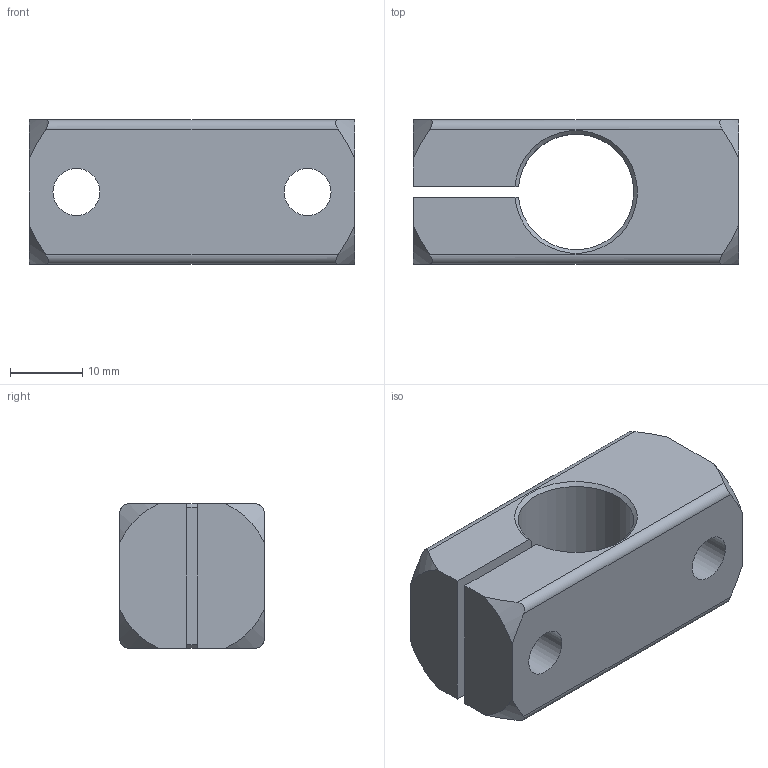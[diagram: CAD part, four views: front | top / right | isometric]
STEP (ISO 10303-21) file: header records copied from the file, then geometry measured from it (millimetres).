
FILE_DESCRIPTION( ( 'STEP AP203' ), '1' );
FILE_NAME( 'C:/Temp/Ganter_Step_05_03_2020/data/3_7/gn_477/Clamp mounting GN 477-B16-MT.stp', '2020-03-12T14:46:06', ( 'License CC BY-ND 4.0' ), ( 'CADENAS' ), ' ', 'PARTsolutions', ' ' );
FILE_SCHEMA( ( 'CONFIG_CONTROL_DESIGN' ) );
Length unit declared in the file: millimetre
Products named in the file (1): _Clamp mounting GN 477-B16-MT
Bounding box: 45 x 20 x 20 mm (x, y, z)
Volume: 11465.5 mm3; surface area: 6013.4 mm2
Topology: 1 solids, 1 shells, 31 faces, 83 edges, 56 vertices
Faces by surface type: plane 11, cone 10, cylinder 10
Full cylindrical faces by diameter (mm): 6.5 x3, 10.5 x2
Entity records: 1112 total; most frequent: CARTESIAN_POINT 342, ORIENTED_EDGE 152, DIRECTION 134, EDGE_CURVE 76, AXIS2_PLACEMENT_3D 54, VERTEX_POINT 54, EDGE_LOOP 44, FACE_OUTER_BOUND 36
